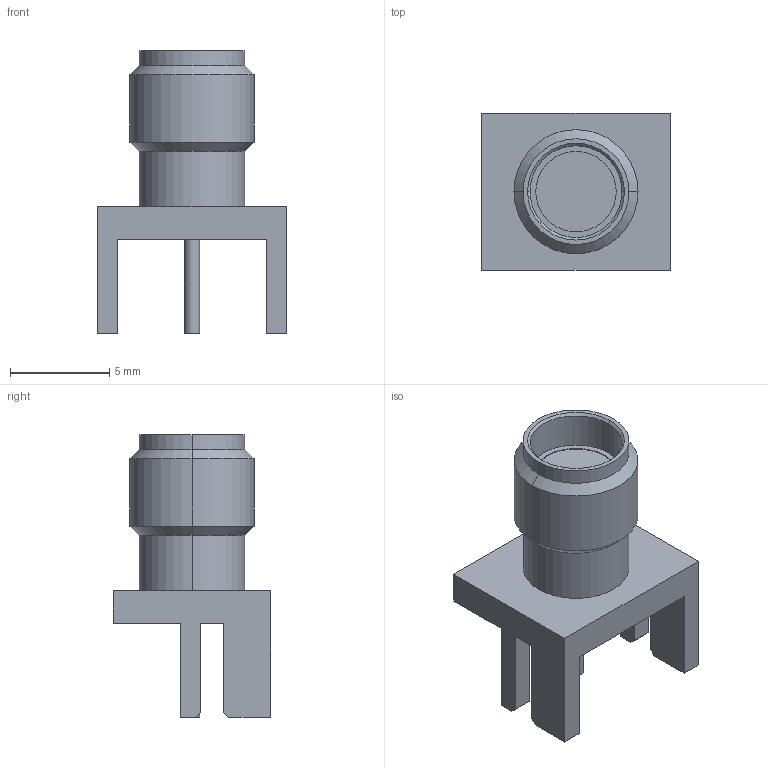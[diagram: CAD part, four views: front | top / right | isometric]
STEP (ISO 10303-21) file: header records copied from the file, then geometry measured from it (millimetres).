
FILE_DESCRIPTION (( 'STEP AP203' ), '1' );
FILE_NAME ('2985-6036.STEP', '2017-03-09T13:18:50', ( '' ), ( '' ), 'SwSTEP 2.0', 'SolidWorks 2016', '' );
FILE_SCHEMA (( 'CONFIG_CONTROL_DESIGN' ));
Length unit declared in the file: inch
Products named in the file (1): 2985-6036
Bounding box: 9.53 x 7.92 x 14.27 mm (x, y, z)
Volume: 334.6 mm3; surface area: 499.7 mm2
Topology: 1 solids, 1 shells, 49 faces, 116 edges, 74 vertices
Faces by surface type: plane 29, cylinder 12, cone 8
Entity records: 1479 total; most frequent: DIRECTION 246, CARTESIAN_POINT 240, ORIENTED_EDGE 232, EDGE_CURVE 116, LINE 86, VECTOR 86, AXIS2_PLACEMENT_3D 80, VERTEX_POINT 74
